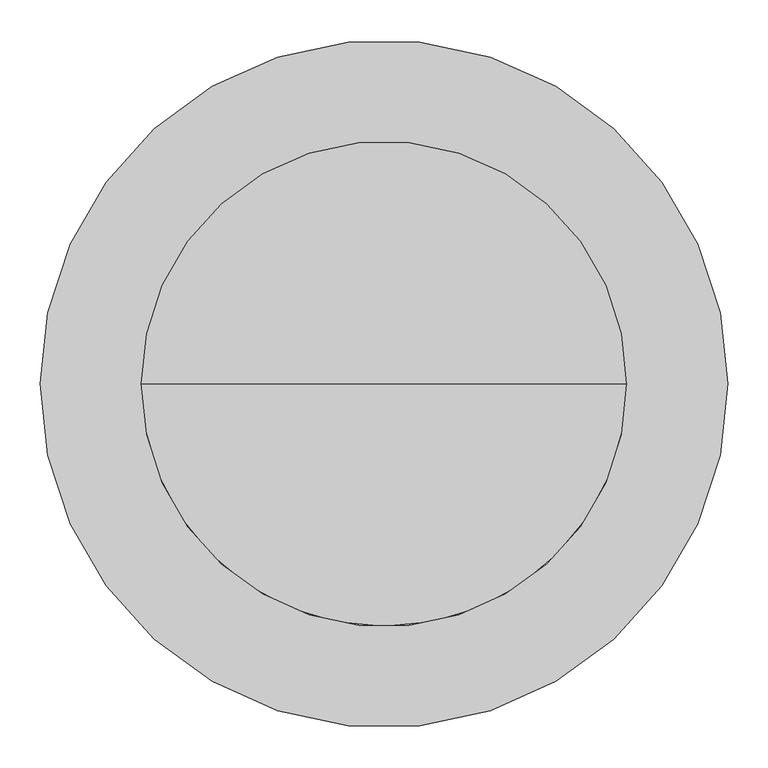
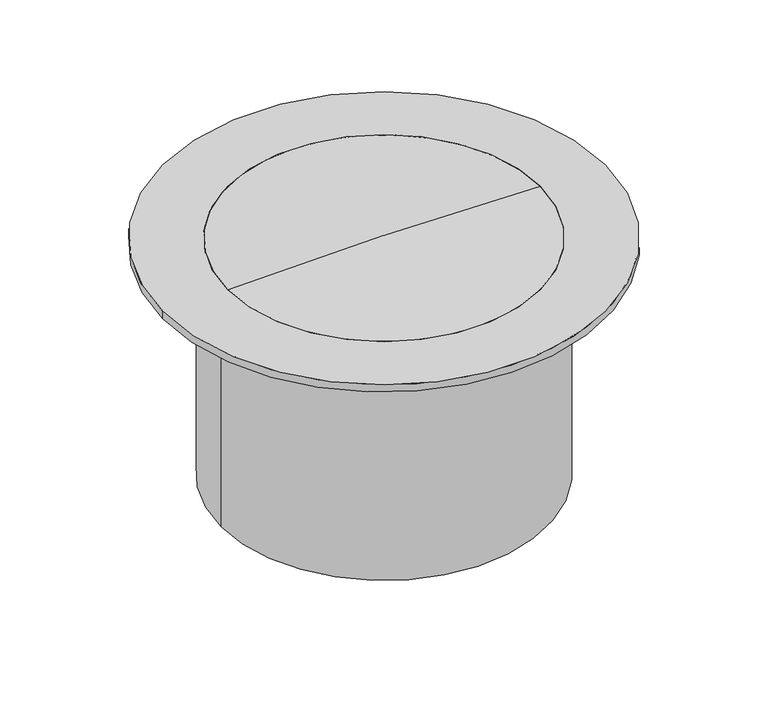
"""IFC4 building model written with IfcOpenShell, lengths in millimetres: proxy geometry, GRAF Tele Dome 600 Maxi : 600 Maxi."""

from ifc_helpers import new_model, si_unit, point, frame, origin, origin_2d, place, context, project, spatial, polyline, circle_curve, ellipse_curve, trimmed, segment, composite_curve, outline, extrude, source, transform, mapped, element, save
from ifc_brep_helpers import plane_surface, cylinder_surface, revolved_surface, advanced_brep


def specialty_equipment_5184973a(model_context):
    return source(origin(), model_context, "Body", "SolidModel", [
        extrude(outline(composite_curve([segment(trimmed(circle_curve(origin_2d(), 425.0), [point((-425.0, 0.0))], [point((425.0, 0.0))], False, "CARTESIAN"), True, "CONTINUOUS"), segment(trimmed(circle_curve(origin_2d(), 425.0), [point((425.0, 0.0))], [point((-425.0, 0.0))], False, "CARTESIAN"), True, "CONTINUOUS")], self_intersect=False), holes=[composite_curve([segment(trimmed(circle_curve(origin_2d(), 300.0), [point((-300.0, 0.0))], [point((300.0, 0.0))], True, "CARTESIAN"), True, "CONTINUOUS"), segment(trimmed(circle_curve(origin_2d(), 300.0), [point((300.0, 0.0))], [point((-300.0, 0.0))], True, "CARTESIAN"), True, "CONTINUOUS")], self_intersect=False)]), frame((0.0, 0.0, -14.9500624), z_axis=(0.0, 0.0, 1.0), x_axis=(1.0, 0.0, 0.0)), (0.0, 0.0, 1.0), 14.9500624),
        advanced_brep(
        [(0.0, 0.0, -14.9500624), (-300.0, 0.0, -14.9500624), (300.0, 0.0, -14.9500624), (300.0, 0.0, 0.0), (-300.0, 0.0, 0.0), (0.0, 0.0, 6.1740495)],
        [
            (0, 1),
            (1, 2, circle_curve(frame((0.0, 0.0, -14.9500624), z_axis=(0.0, 0.0, -1.0), x_axis=(-1.0, 0.0, 0.0)), 300.0)),
            (2, 0),
            (2, 1, circle_curve(frame((0.0, 0.0, -14.9500624), z_axis=(0.0, 0.0, -1.0), x_axis=(-1.0, 0.0, 0.0)), 300.0)),
            (3, 4, circle_curve(frame((0.0, 0.0, 0.0), z_axis=(0.0, 0.0, 1.0), x_axis=(-1.0, 0.0, 0.0)), 300.0)),
            (4, 5, circle_curve(frame((0.0, 0.0, -7285.4842816), z_axis=(0.0, 1.0, 0.0), x_axis=(1.0, 0.0, 0.0)), 7291.6583311)),
            (5, 3, circle_curve(frame((0.0, 0.0, -7285.4842816), z_axis=(0.0, 1.0, 0.0), x_axis=(-1.0, 0.0, 0.0)), 7291.6583311)),
            (4, 3, circle_curve(frame((0.0, 0.0, 0.0), z_axis=(0.0, 0.0, 1.0), x_axis=(-1.0, 0.0, 0.0)), 300.0)),
            (1, 4),
            (3, 2),
        ],
        [
            plane_surface(frame((0.0, 0.0, -14.9500624), z_axis=(0.0, 0.0, -1.0), x_axis=(-1.0, 0.0, 0.0))),
            revolved_surface(trimmed(ellipse_curve(frame((0.0, 0.0, -7285.4842816), z_axis=(0.0, -1.0, 0.0), x_axis=(1.0, 0.0, 0.0)), 7291.6583311, 7291.6583311), [point((0.0, 0.0, 6.1740495))], [point((-300.0, 0.0, 0.0))], True, "CARTESIAN"), (0.0, 0.0, -119.9500624), (0.0, 0.0, -1.0)),
            cylinder_surface(frame((0.0, 0.0, -119.9500624), z_axis=(0.0, 0.0, -1.0), x_axis=(-1.0, 0.0, 0.0)), 300.0),
        ],
        [
            (0, [[1, 2, 3]]),
            (0, [[-3, 4, -1]]),
            (1, [[5, 6, 7]]),
            (1, [[8, -7, -6]]),
            (2, [[-2, 9, -5, 10]]),
            (2, [[-4, -10, -8, -9]]),
        ],
    ),
        extrude(outline(composite_curve([segment(trimmed(circle_curve(origin_2d(), 313.0), [point((-313.0, 0.0))], [point((313.0, 0.0))], False, "CARTESIAN"), True, "CONTINUOUS"), segment(trimmed(circle_curve(origin_2d(), 313.0), [point((313.0, 0.0))], [point((-313.0, 0.0))], False, "CARTESIAN"), True, "CONTINUOUS")], self_intersect=False), holes=[composite_curve([segment(trimmed(circle_curve(origin_2d(), 300.0), [point((-300.0, 0.0))], [point((300.0, 0.0))], True, "CARTESIAN"), True, "CONTINUOUS"), segment(trimmed(circle_curve(origin_2d(), 300.0), [point((300.0, 0.0))], [point((-300.0, 0.0))], True, "CARTESIAN"), True, "CONTINUOUS")], self_intersect=False)]), frame((0.0, 0.0, -476.0), z_axis=(0.0, 0.0, 1.0), x_axis=(1.0, 0.0, 0.0)), (0.0, 0.0, 1.0), 461.0499376),
        extrude(outline(polyline([(-42.0990731, 0.0), (0.0, 0.0), (-42.0990731, -57.1373839), (-42.0990731, 0.0)])), frame((298.912638, -92.9797552, -57.0491355), z_axis=(0.2817325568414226, 0.9594929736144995, 0.0), x_axis=(0.0, 0.0, -1.0)), (0.0, 0.0, 1.0), 10.0),
        extrude(outline(polyline([(-42.0990731, 0.0), (0.0, 0.0), (-42.0990731, -57.137384), (-42.0990731, 0.0)])), frame((260.6091517, -173.4268435, -57.0491355), z_axis=(0.5406408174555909, 0.8412535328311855, 0.0), x_axis=(0.0, 0.0, -1.0)), (0.0, 0.0, 1.0), 10.0),
        extrude(outline(polyline([(-42.0990731, 0.0), (0.0, 0.0), (-42.0990731, -57.137384), (-42.0990731, 0.0)])), frame((201.1926619, -239.8239204, -57.0491355), z_axis=(0.7557495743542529, 0.6548607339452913, 0.0), x_axis=(0.0, 0.0, -1.0)), (0.0, 0.0, 1.0), 10.0),
        extrude(outline(polyline([(-42.0990731, 0.0), (0.0, 0.0), (-42.0990731, -57.137384), (-42.0990731, 0.0)])), frame((125.4767391, -286.7918896, -57.0491355), z_axis=(0.9096319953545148, 0.4154150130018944, 0.0), x_axis=(0.0, 0.0, -1.0)), (0.0, 0.0, 1.0), 10.0),
        extrude(outline(polyline([(-42.0990731, 0.0), (0.0, 0.0), (-42.0990731, -57.137384), (-42.0990731, 0.0)])), frame((39.5954372, -310.5256855, -57.0491355), z_axis=(0.9898214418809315, 0.1423148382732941, 0.0), x_axis=(0.0, 0.0, -1.0)), (0.0, 0.0, 1.0), 10.0),
        extrude(outline(polyline([(42.0990731, 0.0), (42.0990731, -57.137384), (0.0, 0.0), (42.0990731, 0.0)])), frame((-39.5954372, -310.5256855, -57.0491355), z_axis=(-0.9898214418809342, 0.14231483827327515, 0.0), x_axis=(0.0, 0.0, 1.0)), (0.0, 0.0, 1.0), 10.0),
        extrude(outline(polyline([(42.0990731, 0.0), (42.0990731, -57.137384), (0.0, 0.0), (42.0990731, 0.0)])), frame((-125.4767391, -286.7918896, -57.0491355), z_axis=(-0.9096319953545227, 0.41541501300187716, 0.0), x_axis=(0.0, 0.0, 1.0)), (0.0, 0.0, 1.0), 10.0),
        extrude(outline(polyline([(42.0990731, 0.0), (42.0990731, -57.137384), (0.0, 0.0), (42.0990731, 0.0)])), frame((-201.1926619, -239.8239204, -57.0491355), z_axis=(-0.7557495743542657, 0.6548607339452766, 0.0), x_axis=(0.0, 0.0, 1.0)), (0.0, 0.0, 1.0), 10.0),
        extrude(outline(polyline([(42.0990731, 0.0), (42.0990731, -57.137384), (0.0, 0.0), (42.0990731, 0.0)])), frame((-260.6091517, -173.4268435, -57.0491355), z_axis=(-0.5406408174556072, 0.8412535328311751, 0.0), x_axis=(0.0, 0.0, 1.0)), (0.0, 0.0, 1.0), 10.0),
        extrude(outline(polyline([(42.0990731, 0.0), (42.0990731, -57.1373839), (0.0, 0.0), (42.0990731, 0.0)])), frame((-298.912638, -92.9797552, -57.0491355), z_axis=(-0.28173255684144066, 0.9594929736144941, 0.0), x_axis=(0.0, 0.0, 1.0)), (0.0, 0.0, 1.0), 10.0),
        extrude(outline(polyline([(0.0, 0.0), (0.0, -42.0990731), (-57.137384, 0.0), (0.0, 0.0)])), frame((301.7299635, 83.3848254, -14.9500624), z_axis=(-0.2817325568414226, 0.9594929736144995, 0.0), x_axis=(-0.9594929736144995, -0.2817325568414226, 0.0)), (0.0, 0.0, 1.0), 10.0),
        extrude(outline(polyline([(0.0, 0.0), (0.0, -42.0990731), (-57.137384, 0.0), (0.0, 0.0)])), frame((266.0155599, 165.0143082, -14.9500624), z_axis=(-0.5406408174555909, 0.8412535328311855, 0.0), x_axis=(-0.8412535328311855, -0.5406408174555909, 0.0)), (0.0, 0.0, 1.0), 10.0),
        extrude(outline(polyline([(0.0, 0.0), (0.0, -42.0990731), (-57.137384, 0.0), (0.0, 0.0)])), frame((208.7501576, 233.2753131, -14.9500624), z_axis=(-0.7557495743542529, 0.6548607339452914, 0.0), x_axis=(-0.6548607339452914, -0.7557495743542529, 0.0)), (0.0, 0.0, 1.0), 10.0),
        extrude(outline(polyline([(0.0, 0.0), (0.0, -42.0990731), (-57.137384, 0.0), (0.0, 0.0)])), frame((134.573059, 282.6377395, -14.9500624), z_axis=(-0.9096319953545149, 0.4154150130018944, 0.0), x_axis=(-0.4154150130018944, -0.9096319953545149, 0.0)), (0.0, 0.0, 1.0), 10.0),
        extrude(outline(polyline([(0.0, 0.0), (0.0, -42.0990731), (-57.137384, 0.0), (0.0, 0.0)])), frame((49.4936516, 309.1025371, -14.9500624), z_axis=(-0.9898214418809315, 0.1423148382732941, 0.0), x_axis=(-0.1423148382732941, -0.9898214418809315, 0.0)), (0.0, 0.0, 1.0), 10.0),
        extrude(outline(polyline([(0.0, 0.0), (57.137384, 0.0), (0.0, -42.0990731), (0.0, 0.0)])), frame((-49.4936516, 309.1025371, -14.9500624), z_axis=(0.9898214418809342, 0.14231483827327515, 0.0), x_axis=(-0.14231483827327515, 0.9898214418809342, 0.0)), (0.0, 0.0, 1.0), 10.0),
        extrude(outline(polyline([(0.0, 0.0), (57.137384, 0.0), (0.0, -42.0990731), (0.0, 0.0)])), frame((-134.573059, 282.6377395, -14.9500624), z_axis=(0.9096319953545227, 0.4154150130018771, 0.0), x_axis=(-0.4154150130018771, 0.9096319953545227, 0.0)), (0.0, 0.0, 1.0), 10.0),
        extrude(outline(polyline([(0.0, 0.0), (57.137384, 0.0), (0.0, -42.0990731), (0.0, 0.0)])), frame((-208.7501576, 233.2753131, -14.9500624), z_axis=(0.7557495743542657, 0.6548607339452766, 0.0), x_axis=(-0.6548607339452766, 0.7557495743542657, 0.0)), (0.0, 0.0, 1.0), 10.0),
        extrude(outline(polyline([(0.0, 0.0), (57.137384, 0.0), (0.0, -42.0990731), (0.0, 0.0)])), frame((-266.0155599, 165.0143082, -14.9500624), z_axis=(0.5406408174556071, 0.841253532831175, 0.0), x_axis=(-0.841253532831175, 0.5406408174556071, 0.0)), (0.0, 0.0, 1.0), 10.0),
        extrude(outline(polyline([(0.0, 0.0), (57.137384, 0.0), (0.0, -42.0990731), (0.0, 0.0)])), frame((-301.7299635, 83.3848254, -14.9500624), z_axis=(0.2817325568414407, 0.9594929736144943, 0.0), x_axis=(-0.9594929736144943, 0.2817325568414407, 0.0)), (0.0, 0.0, 1.0), 10.0),
        extrude(outline(polyline([(-14.9500624, 313.0), (-57.0491355, 313.0), (-14.9500624, 370.137384), (-14.9500624, 313.0)])), frame((0.0, -5.0, 0.0), z_axis=(0.0, 1.0, 0.0), x_axis=(0.0, 0.0, 1.0)), (0.0, 0.0, 1.0), 10.0),
        extrude(outline(polyline([(-14.9500624, -313.0), (-14.9500624, -370.137384), (-57.0491355, -313.0), (-14.9500624, -313.0)])), frame((0.0, -5.0, 0.0), z_axis=(0.0, 1.0, 0.0), x_axis=(0.0, 0.0, 1.0)), (0.0, 0.0, 1.0), 10.0),
    ])


if __name__ == "__main__":
    model = new_model("IFC4")
    model_context = context("Model", 3, world=origin())
    ifc_project = project(units=[si_unit("LENGTHUNIT", "METRE", prefix="MILLI")], contexts=[model_context])
    site = spatial("IfcSite", under=ifc_project)
    building = spatial("IfcBuilding", under=site)
    placement = place(None, origin())
    specialty_equipment_shape = specialty_equipment_5184973a(model_context)
    element("IfcBuildingElementProxy", 1, Name="GRAF Tele Dome 600 Maxi : 600 Maxi", ObjectType="GRAF Tele Dome 600 Maxi : 600 Maxi", at=placement, inside=building, context=model_context, shape_type="MappedRepresentation", body=[
        mapped(specialty_equipment_shape, transform((0.0, 0.0, 0.0), x_axis=(1.0, 0.0, 0.0), y_axis=(0.0, 1.0, 0.0), z_axis=(0.0, 0.0, 1.0))),
    ])
    save(model, "model.ifc")
